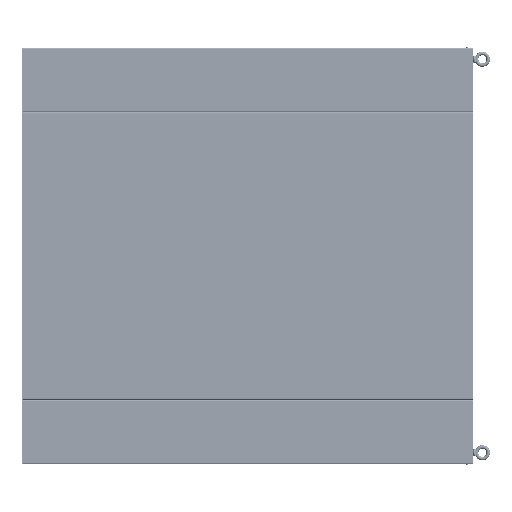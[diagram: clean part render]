
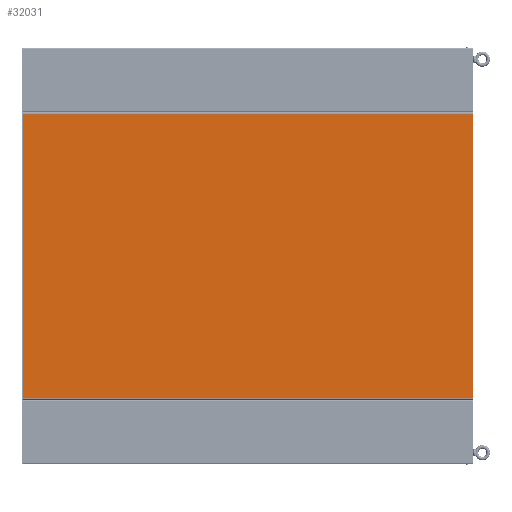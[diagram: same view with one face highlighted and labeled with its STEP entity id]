
A CAD part, left-side view. The second image highlights one B-rep face of the part: STEP entity #32031.
In plain terms, the highlighted planar face has unit normal (-1, 0, 0) as drawn and (0, 0, -1) by its records, which use the part's own axes.
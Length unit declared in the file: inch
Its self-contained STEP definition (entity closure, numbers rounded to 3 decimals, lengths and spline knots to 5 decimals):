
#29344=DIRECTION('',(0.,-1.,0.));
#29345=VECTOR('',#29344,83.75);
#29346=CARTESIAN_POINT('',(-26.5,0.,-0.125));
#29347=LINE('',#29346,#29345);
#29359=DIRECTION('',(1.,0.,0.));
#29360=VECTOR('',#29359,53.);
#29361=CARTESIAN_POINT('',(-26.5,-83.75,-0.125));
#29362=LINE('',#29361,#29360);
#29366=DIRECTION('',(-1.,0.,0.));
#29367=VECTOR('',#29366,53.);
#29368=CARTESIAN_POINT('',(26.5,0.,-0.125));
#29369=LINE('',#29368,#29367);
#29402=DIRECTION('',(0.,1.,0.));
#29403=VECTOR('',#29402,83.75);
#29404=CARTESIAN_POINT('',(26.5,-83.75,-0.125));
#29405=LINE('',#29404,#29403);
#30799=CARTESIAN_POINT('',(-26.5,-83.75,-0.125));
#30800=VERTEX_POINT('',#30799);
#30801=CARTESIAN_POINT('',(-26.5,0.,-0.125));
#30802=VERTEX_POINT('',#30801);
#31071=CARTESIAN_POINT('',(26.5,0.,-0.125));
#31072=VERTEX_POINT('',#31071);
#31073=CARTESIAN_POINT('',(26.5,-83.75,-0.125));
#31074=VERTEX_POINT('',#31073);
#32017=CARTESIAN_POINT('',(0.,0.,-0.125));
#32018=DIRECTION('',(0.,0.,1.));
#32019=DIRECTION('',(1.,0.,0.));
#32020=AXIS2_PLACEMENT_3D('',#32017,#32018,#32019);
#32021=PLANE('',#32020);
#32022=ORIENTED_EDGE('',*,*,#32010,.T.);
#32024=ORIENTED_EDGE('',*,*,#32023,.T.);
#32026=ORIENTED_EDGE('',*,*,#32025,.T.);
#32028=ORIENTED_EDGE('',*,*,#32027,.T.);
#32029=EDGE_LOOP('',(#32022,#32024,#32026,#32028));
#32030=FACE_OUTER_BOUND('',#32029,.F.);
#32010=EDGE_CURVE('',#30802,#30800,#29347,.T.);
#32023=EDGE_CURVE('',#30800,#31074,#29362,.T.);
#32025=EDGE_CURVE('',#31074,#31072,#29405,.T.);
#32027=EDGE_CURVE('',#31072,#30802,#29369,.T.);
#32031=ADVANCED_FACE('',(#32030),#32021,.F.);
